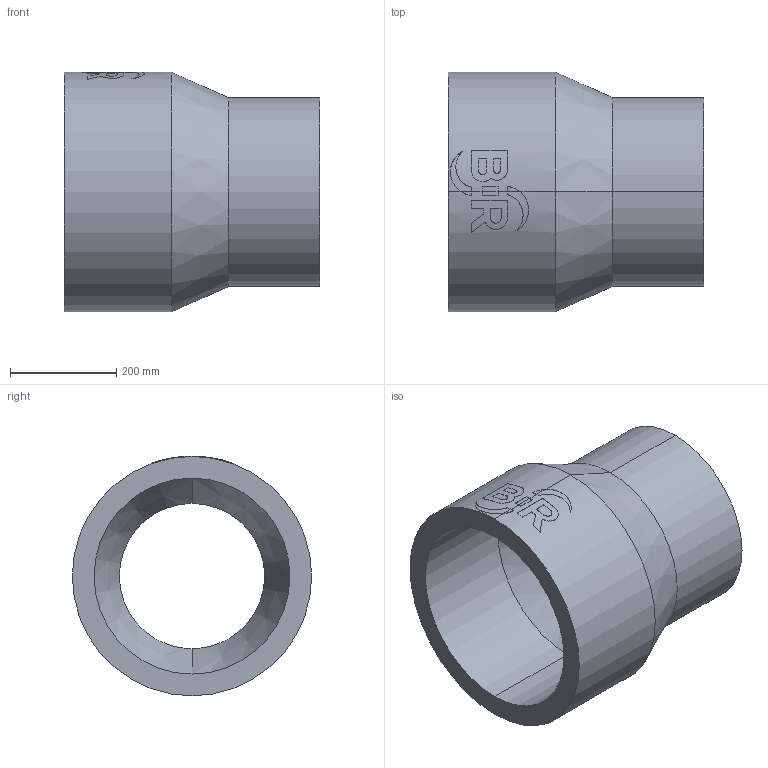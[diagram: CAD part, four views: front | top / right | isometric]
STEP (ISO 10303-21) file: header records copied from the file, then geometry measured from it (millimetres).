
FILE_DESCRIPTION (( 'STEP AP214' ), '1' );
FILE_NAME ('2323262415.STEP', '2018-07-20T10:13:43', ( '' ), ( '' ), 'SwSTEP 2.0', 'SolidWorks 2017', '' );
FILE_SCHEMA (( 'AUTOMOTIVE_DESIGN' ));
Length unit declared in the file: millimetre
Products named in the file (1): 2323262415
Bounding box: 480 x 450 x 450.46 mm (x, y, z)
Volume: 22907312.2 mm3; surface area: 1213515.4 mm2
Topology: 1 solids, 1 shells, 63 faces, 160 edges, 104 vertices
Faces by surface type: cylinder 31, plane 28, cone 4
Entity records: 3488 total; most frequent: CARTESIAN_POINT 1279, ORIENTED_EDGE 320, DIRECTION 296, EDGE_CURVE 160, AXIS2_PLACEMENT_3D 112, VERTEX_POINT 104, VECTOR 72, LINE 72
